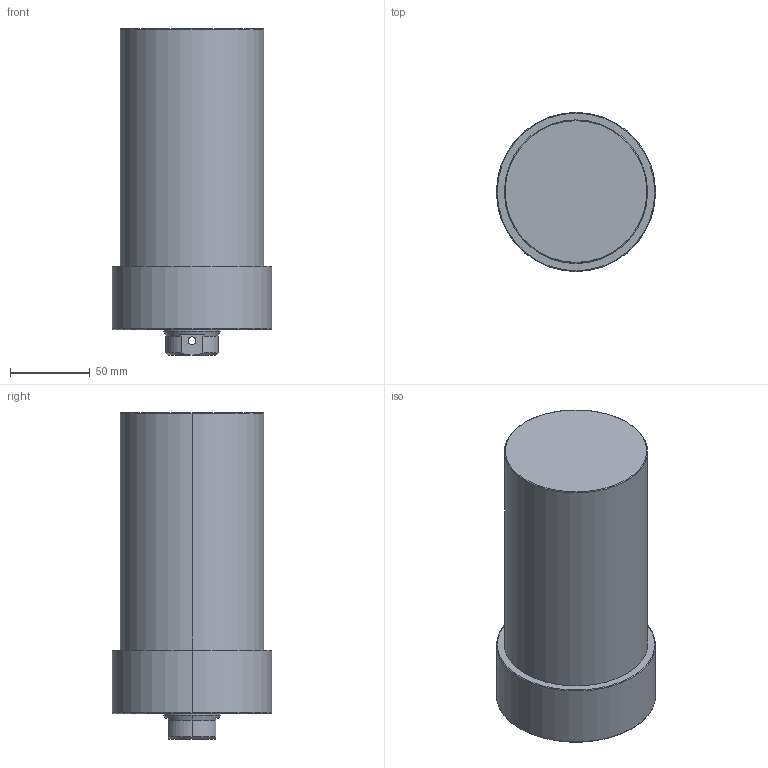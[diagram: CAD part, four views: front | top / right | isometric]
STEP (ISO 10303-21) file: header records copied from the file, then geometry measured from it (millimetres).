
FILE_DESCRIPTION (( 'STEP AP203' ), '1' );
FILE_NAME ('CLLU-090GB-105.STEP', '2020-01-13T05:52:29', ( '' ), ( '' ), 'SwSTEP 2.0', 'SolidWorks 2015', '' );
FILE_SCHEMA (( 'CONFIG_CONTROL_DESIGN' ));
Length unit declared in the file: millimetre
Products named in the file (1): CLLU-090GB-105
Bounding box: 100 x 100 x 205 mm (x, y, z)
Volume: 1255545.3 mm3; surface area: 77728.9 mm2
Topology: 1 solids, 1 shells, 68 faces, 155 edges, 88 vertices
Faces by surface type: cylinder 27, cone 25, plane 10, torus 6
Entity records: 2061 total; most frequent: CARTESIAN_POINT 462, DIRECTION 350, ORIENTED_EDGE 290, AXIS2_PLACEMENT_3D 148, EDGE_CURVE 145, VERTEX_POINT 88, EDGE_LOOP 81, CIRCLE 79
